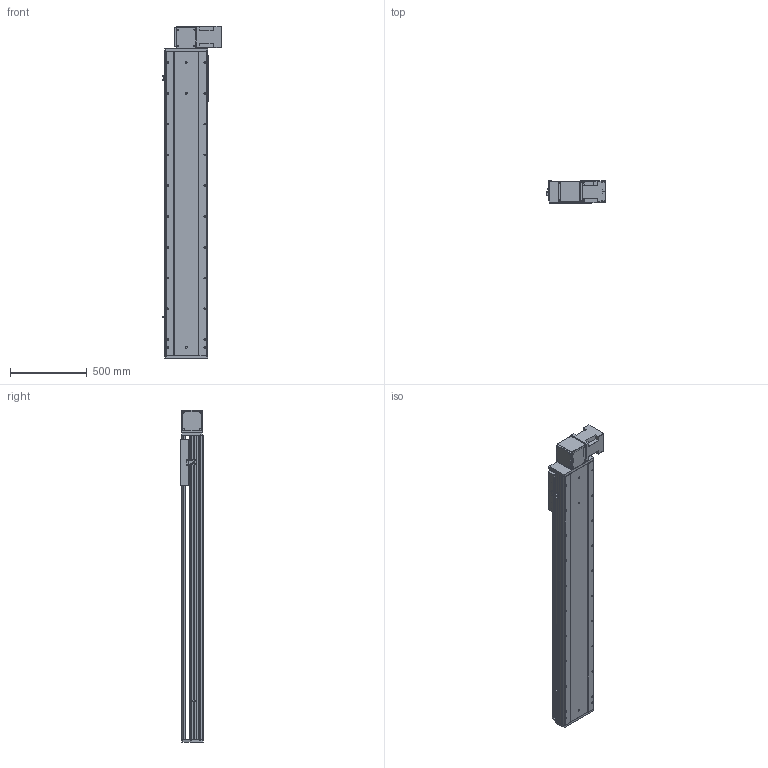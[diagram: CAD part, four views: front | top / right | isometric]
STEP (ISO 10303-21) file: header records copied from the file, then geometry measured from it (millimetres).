
FILE_DESCRIPTION (( 'STEP AP214' ), '1' );
FILE_NAME ('RTB28S-XX-1550-BL-M100-XX-C4.STEP', '2025-12-22T02:23:40', ( '' ), ( '' ), 'SwSTEP 2.0', 'SolidWorks 2018', '' );
FILE_SCHEMA (( 'AUTOMOTIVE_DESIGN' ));
Length unit declared in the file: millimetre
Products named in the file (4): RTB28S-XX-1550-BL-M100-XX-C4; RTB28S-GY-011^RTB28S-XX-XX-BL-M100-XX-C4; RTB28S-GY-004^RTB28S-XX-XX-BL-M100-XX-C4; RTB28S-GY-008^RTB28S-XX-XX-BL-M100-XX-C4
Assembly tree (3 placements, depth 2):
  RTB28S-XX-1550-BL-M100-XX-C4
    RTB28S-GY-011^RTB28S-XX-XX-BL-M100-XX-C4
    RTB28S-GY-004^RTB28S-XX-XX-BL-M100-XX-C4
    RTB28S-GY-008^RTB28S-XX-XX-BL-M100-XX-C4
Bounding box: 380.7 x 145 x 2157 mm (x, y, z)
Volume: 38268821 mm3; surface area: 3644557.6 mm2
Topology: 3 solids, 4 shells, 818 faces, 2178 edges, 1388 vertices
Faces by surface type: cylinder 383, plane 351, cone 80, torus 4
Entity records: 30971 total; most frequent: CARTESIAN_POINT 5452, DIRECTION 4620, ORIENTED_EDGE 4292, EDGE_CURVE 2146, AXIS2_PLACEMENT_3D 1680, VERTEX_POINT 1388, VECTOR 1260, LINE 1260
